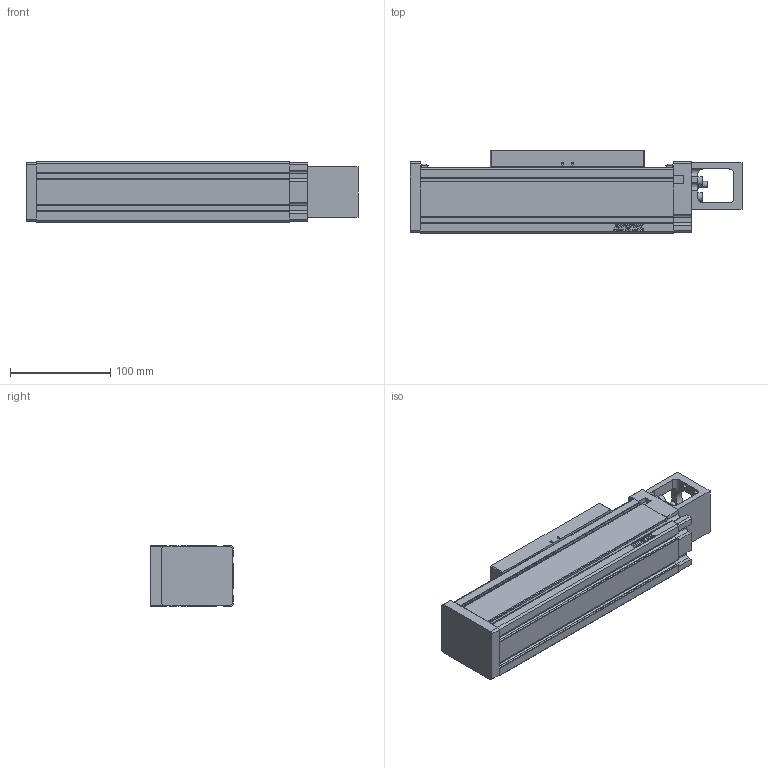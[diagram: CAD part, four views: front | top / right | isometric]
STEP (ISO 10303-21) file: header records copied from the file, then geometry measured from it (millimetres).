
FILE_DESCRIPTION(/* description */ (''),/* implementation_level */ '2;1');
FILE_NAME(/* name */ 'D:\混合母檔20191031\混和母檔\混和母檔\bin\Debug\Download\3D\KU60-10C-50AF0\KU60-10C-50AF0.stp',/* time_stamp */ '2019-11-04T16:33:59+08:00',/* author */ ('user'),/* organization */ (''),/* preprocessor_version */ 'ST-DEVELOPER v16.13',/* originating_system */ 'Autodesk Inventor 2018',/* authorisation */ '');
FILE_SCHEMA (('AUTOMOTIVE_DESIGN { 1 0 10303 214 3 1 1 }'));
Length unit declared in the file: millimetre
Products named in the file (3): KU60-10C-50AF0; KU060-F0-BP; KU60-SL
Assembly tree (2 placements, depth 2):
  KU60-10C-50AF0
    KU060-F0-BP
    KU60-SL
Bounding box: 331 x 82 x 60 mm (x, y, z)
Volume: 1223097.8 mm3; surface area: 146669.1 mm2
Topology: 2 solids, 14 shells, 756 faces, 2087 edges, 1370 vertices
Faces by surface type: plane 448, bspline 140, cylinder 133, cone 23, torus 12
Full cylindrical faces by diameter (mm): 2.459 x8, 3 x4, 3.242 x16, 3.5 x4, 4.5 x4, 5 x4, 5.5 x4, 5.7 x4, 6 x1, 8 x1, 8.5 x4, 30 x1, 35 x1
Entity records: 24568 total; most frequent: CARTESIAN_POINT 6539, ORIENTED_EDGE 3902, DIRECTION 3204, EDGE_CURVE 1951, VERTEX_POINT 1321, LINE 1288, VECTOR 1288, AXIS2_PLACEMENT_3D 958
